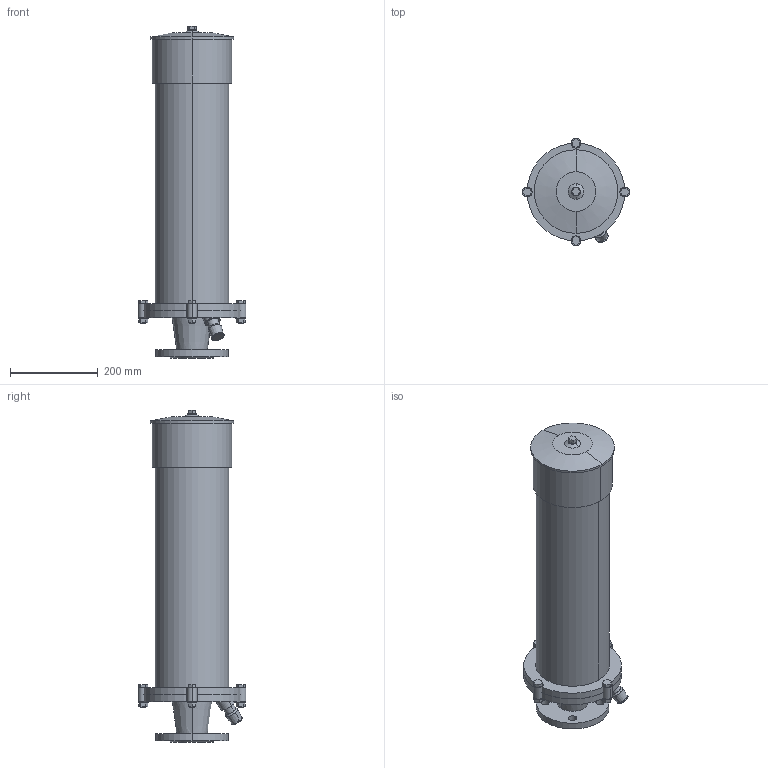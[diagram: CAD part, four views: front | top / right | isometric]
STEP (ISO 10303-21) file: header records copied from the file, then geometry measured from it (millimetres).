
FILE_DESCRIPTION(('STEP AP214'),'1');
FILE_NAME('S:/EK/USER/CAT6/3DHomepage/9822/9822-PN16-DN50-755.STP','2012-04-26T08:00:02',(' '),(' '),'Spatial InterOp 3D',' ',' ');
FILE_SCHEMA(('automotive_design'));
Length unit declared in the file: millimetre
Products named in the file (37): 3D-Objekt
Bounding box: 245 x 245 x 755 mm (x, y, z)
Volume: 16036671.3 mm3; surface area: 854025.9 mm2
Topology: 37 solids, 37 shells, 196 faces, 368 edges, 244 vertices
Faces by surface type: plane 126, cylinder 54, cone 12, torus 4
Entity records: 7369 total; most frequent: DIRECTION 974, CARTESIAN_POINT 845, ORIENTED_EDGE 736, AXIS2_PLACEMENT_3D 373, EDGE_CURVE 368, VERTEX_POINT 244, STYLED_ITEM 233, PRESENTATION_STYLE_ASSIGNMENT 233
